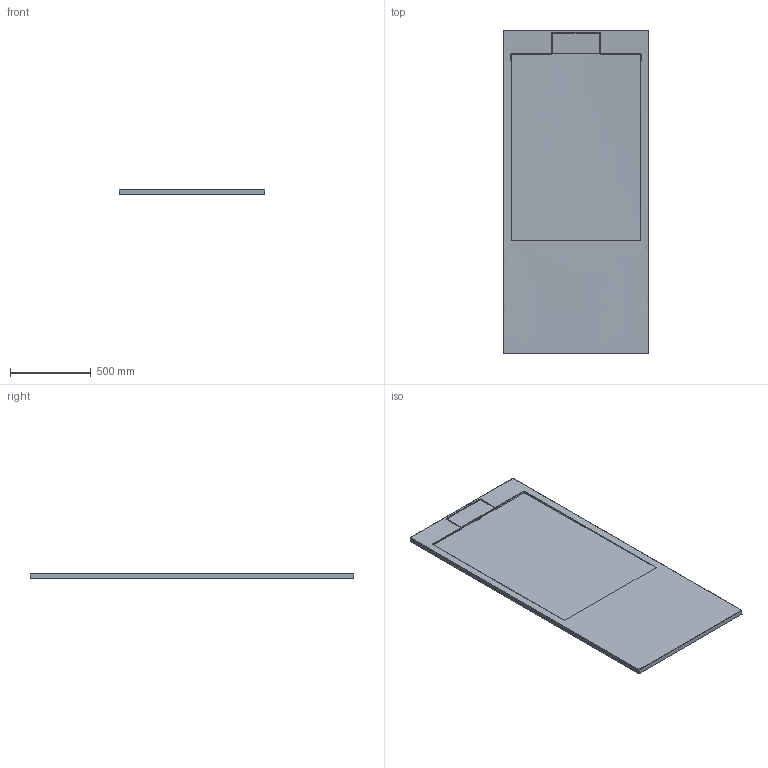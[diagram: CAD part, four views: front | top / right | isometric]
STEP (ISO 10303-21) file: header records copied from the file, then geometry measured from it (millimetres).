
FILE_DESCRIPTION (( 'STEP AP214' ), '1' );
FILE_NAME ('CORAL 200x90 A.STEP', '2024-05-13T10:01:14', ( '' ), ( '' ), 'SwSTEP 2.0', 'SolidWorks 2021', '' );
FILE_SCHEMA (( 'AUTOMOTIVE_DESIGN' ));
Length unit declared in the file: millimetre
Products named in the file (1): CORAL 200x90 A
Bounding box: 901.57 x 2001.05 x 30 mm (x, y, z)
Volume: 45586564.5 mm3; surface area: 3881251.6 mm2
Topology: 2 solids, 2 shells, 135 faces, 317 edges, 176 vertices
Faces by surface type: bspline 76, cylinder 31, plane 28
Full cylindrical faces by diameter (mm): 90 x1
Entity records: 19480 total; most frequent: CARTESIAN_POINT 17156, ORIENTED_EDGE 606, EDGE_CURVE 303, B_SPLINE_CURVE_WITH_KNOTS 215, DIRECTION 204, VERTEX_POINT 176, EDGE_LOOP 141, FACE_OUTER_BOUND 138
